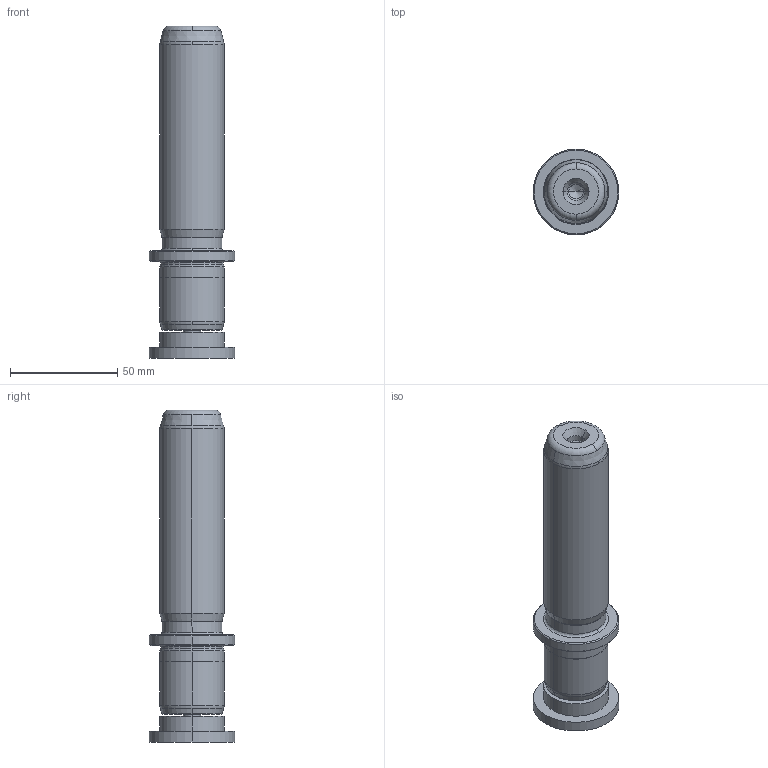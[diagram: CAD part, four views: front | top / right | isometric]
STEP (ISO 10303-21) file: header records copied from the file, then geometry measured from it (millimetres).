
FILE_DESCRIPTION((''),'2;1');
FILE_NAME('P22_030_110.stp','2009-02-03T10:19:05',(''),(''),'Mechanical Desktop 2009','Mechanical Desktop 2009',', , ');
FILE_SCHEMA(('CONFIG_CONTROL_DESIGN'));
Length unit declared in the file: millimetre
Products named in the file (2): Product; blmdl1
Assembly tree (1 placements, depth 2):
  Product
    blmdl1
Bounding box: 40 x 40 x 155 mm (x, y, z)
Volume: 110575.5 mm3; surface area: 22018.8 mm2
Topology: 3 solids, 3 shells, 99 faces, 237 edges, 149 vertices
Faces by surface type: cylinder 32, cone 28, plane 19, torus 10, bspline 10
Entity records: 3419 total; most frequent: CARTESIAN_POINT 923, DIRECTION 570, ORIENTED_EDGE 466, AXIS2_PLACEMENT_3D 246, EDGE_CURVE 233, CIRCLE 155, VERTEX_POINT 149, EDGE_LOOP 110
